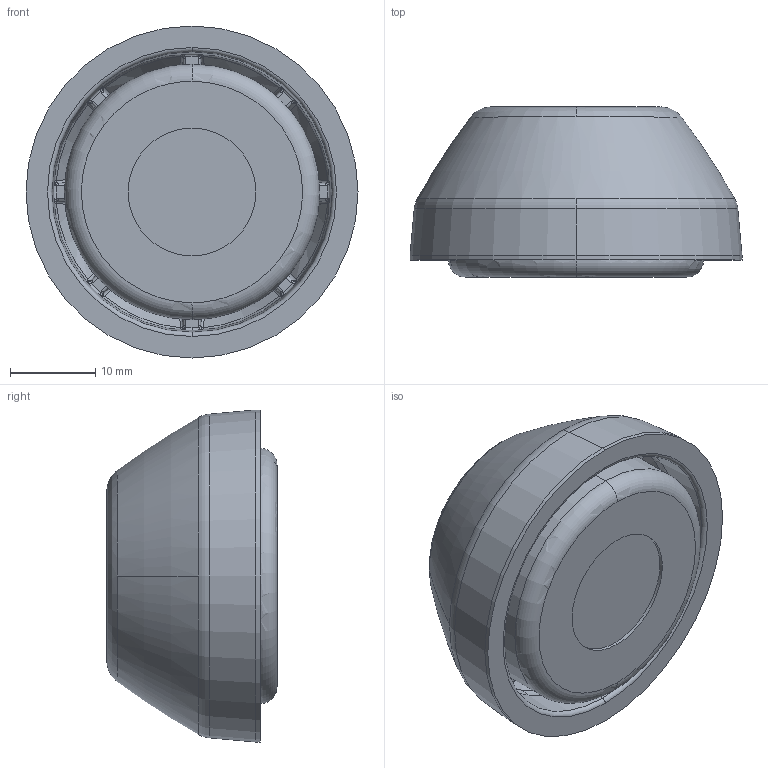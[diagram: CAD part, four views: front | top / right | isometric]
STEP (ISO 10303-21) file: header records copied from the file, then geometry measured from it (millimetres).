
FILE_DESCRIPTION (( 'STEP AP214' ), '1' );
FILE_NAME ('6.04.spaf40.STEP', '2015-05-31T09:06:57', ( '' ), ( '' ), 'SwSTEP 2.0', 'SolidWorks 2015', '' );
FILE_SCHEMA (( 'AUTOMOTIVE_DESIGN' ));
Length unit declared in the file: millimetre
Products named in the file (1): 6.04.spaf40
Bounding box: 39 x 20 x 39 mm (x, y, z)
Volume: 13855.1 mm3; surface area: 7746.2 mm2
Topology: 2 solids, 2 shells, 371 faces, 877 edges, 494 vertices
Faces by surface type: bspline 190, torus 58, plane 39, cylinder 34, cone 32, sphere 18
Entity records: 19850 total; most frequent: CARTESIAN_POINT 8756, ORIENTED_EDGE 1702, DIRECTION 1146, EDGE_CURVE 851, AXIS2_PLACEMENT_3D 516, VERTEX_POINT 488, B_SPLINE_CURVE_WITH_KNOTS 395, UNCERTAINTY_MEASURE_WITH_UNIT 375
